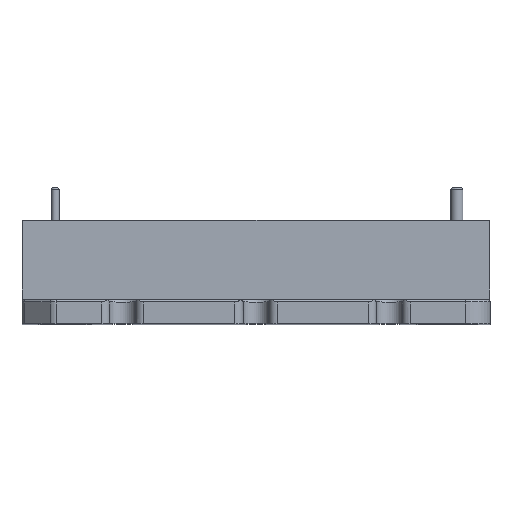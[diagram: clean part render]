
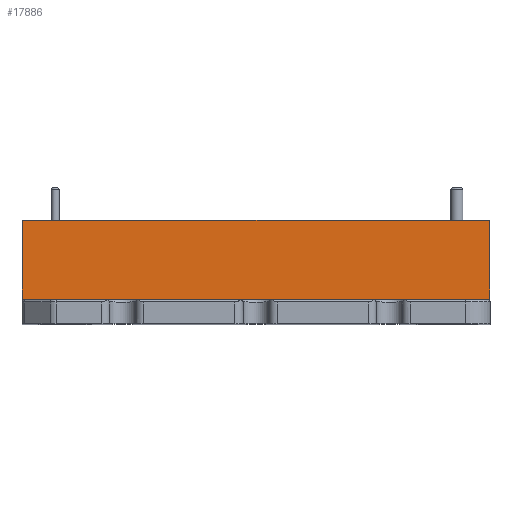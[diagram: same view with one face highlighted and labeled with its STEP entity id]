
A CAD part, top view. The second image highlights one B-rep face of the part: STEP entity #17886.
In plain terms, the highlighted planar face has unit normal (0, 0.009, 1).
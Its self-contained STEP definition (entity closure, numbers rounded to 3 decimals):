
#962 = CARTESIAN_POINT ( 'NONE',  ( -28.95, -1.8, 18.4 ) ) ;
#1192 = CARTESIAN_POINT ( 'NONE',  ( 28.95, -1.8, 18.4 ) ) ;
#2305 = LINE ( 'NONE', #10894, #26232 ) ;
#3140 = VERTEX_POINT ( 'NONE', #14718 ) ;
#3300 = EDGE_CURVE ( 'NONE', #3140, #14928, #2305, .T. ) ;
#3742 = LINE ( 'NONE', #7970, #19581 ) ;
#3752 = ORIENTED_EDGE ( 'NONE', *, *, #7468, .F. ) ;
#5600 = FACE_OUTER_BOUND ( 'NONE', #7595, .T. ) ;
#5763 = VERTEX_POINT ( 'NONE', #1192 ) ;
#6968 = ORIENTED_EDGE ( 'NONE', *, *, #11895, .T. ) ;
#7468 = EDGE_CURVE ( 'NONE', #14928, #5763, #14213, .T. ) ;
#7595 = EDGE_LOOP ( 'NONE', ( #6968, #3752, #12661, #10020 ) ) ;
#7970 = CARTESIAN_POINT ( 'NONE',  ( -28.95, -1.8, 18.4 ) ) ;
#8184 = VECTOR ( 'NONE', #24209, 1000. ) ;
#10020 = ORIENTED_EDGE ( 'NONE', *, *, #26427, .T. ) ;
#10228 = DIRECTION ( 'NONE',  ( 1., 0., 0. ) ) ;
#10894 = CARTESIAN_POINT ( 'NONE',  ( -28.95, 9.8, 18.299 ) ) ;
#11895 = EDGE_CURVE ( 'NONE', #21270, #5763, #3742, .T. ) ;
#12661 = ORIENTED_EDGE ( 'NONE', *, *, #3300, .F. ) ;
#13162 = DIRECTION ( 'NONE',  ( 1., 0., 0. ) ) ;
#14213 = LINE ( 'NONE', #14343, #19101 ) ;
#14343 = CARTESIAN_POINT ( 'NONE',  ( 28.947, -1.479, 18.397 ) ) ;
#14486 = DIRECTION ( 'NONE',  ( 0.009, -1., 0.009 ) ) ;
#14718 = CARTESIAN_POINT ( 'NONE',  ( -28.849, 9.8, 18.299 ) ) ;
#14928 = VERTEX_POINT ( 'NONE', #15414 ) ;
#15414 = CARTESIAN_POINT ( 'NONE',  ( 28.849, 9.8, 18.299 ) ) ;
#15617 = LINE ( 'NONE', #962, #8184 ) ;
#15906 = PLANE ( 'NONE',  #27628 ) ;
#16183 = DIRECTION ( 'NONE',  ( 0., 0.009, 1. ) ) ;
#17886 = ADVANCED_FACE ( 'NONE', ( #5600 ), #15906, .T. ) ;
#19101 = VECTOR ( 'NONE', #14486, 1000. ) ;
#19581 = VECTOR ( 'NONE', #10228, 1000. ) ;
#21270 = VERTEX_POINT ( 'NONE', #26123 ) ;
#22534 = CARTESIAN_POINT ( 'NONE',  ( -28.95, -1.8, 18.4 ) ) ;
#22804 = DIRECTION ( 'NONE',  ( 0., -1., 0.009 ) ) ;
#24209 = DIRECTION ( 'NONE',  ( -0.009, -1., 0.009 ) ) ;
#26123 = CARTESIAN_POINT ( 'NONE',  ( -28.95, -1.8, 18.4 ) ) ;
#26232 = VECTOR ( 'NONE', #13162, 1000. ) ;
#26427 = EDGE_CURVE ( 'NONE', #3140, #21270, #15617, .T. ) ;
#27628 = AXIS2_PLACEMENT_3D ( 'NONE', #22534, #16183, #22804 ) ;
